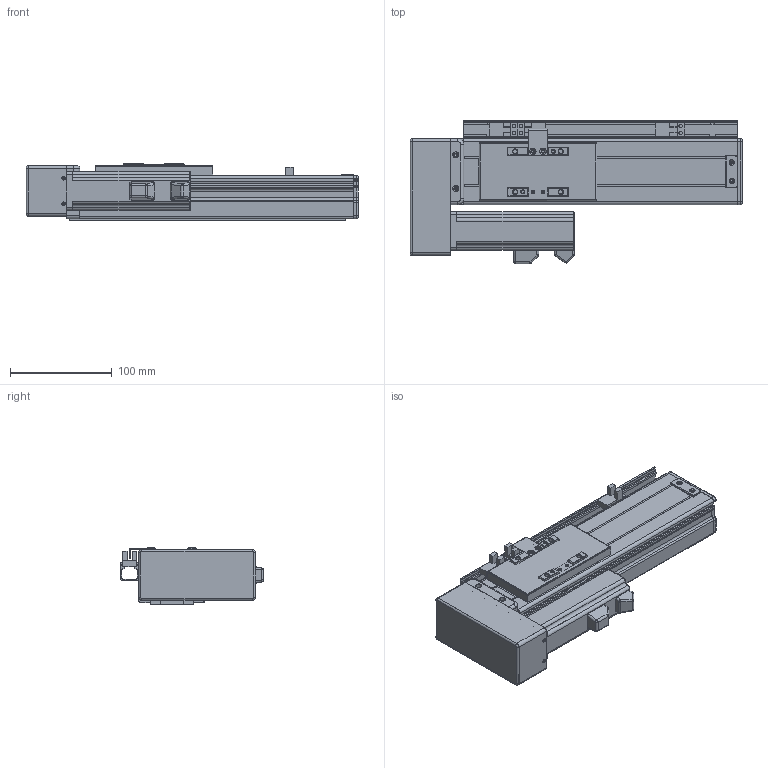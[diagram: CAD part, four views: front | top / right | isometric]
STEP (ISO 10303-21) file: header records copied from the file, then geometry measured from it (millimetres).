
FILE_DESCRIPTION (( 'STEP AP203' ), '1' );
FILE_NAME ('VT6-S120-BL.STEP', '2016-06-17T09:46:28', ( '' ), ( '' ), 'SwSTEP 2.0', 'SolidWorks 2013', '' );
FILE_SCHEMA (( 'CONFIG_CONTROL_DESIGN' ));
Length unit declared in the file: millimetre
Products named in the file (17): T6-BMRLヶ傷裔揤啣; T6-揤輸; VT6-S120-BL; T6-BMRL肮祭湍謫欶; T6-覜茼え; T6-綴傷裔; EE-XS674; ET6-BLRM絳寢_俴最120; ET6-BC耜啣_120; ET6-BLRM滅鳥湍_120; ET6-BC癹弇羲壽羞_120; ET6-BLRM佪裝_120; T6-賑雄殤; T6-BRL萇儂假蚾啣; T6-BMLRヶ傷裔; T6-裔啣; 侂狟100W MSMD012G1V
Assembly tree (19 placements, depth 2):
  VT6-S120-BL
    ET6-BC耜啣_120  x2
    ET6-BC癹弇羲壽羞_120
    T6-賑雄殤
    T6-裔啣
    T6-揤輸
    T6-覜茼え
    T6-綴傷裔
    EE-XS674  x3
    ET6-BLRM絳寢_俴最120
    ET6-BLRM滅鳥湍_120
    ET6-BLRM佪裝_120
    T6-BMLRヶ傷裔
    T6-BMRLヶ傷裔揤啣
    T6-BMRL肮祭湍謫欶
    T6-BRL萇儂假蚾啣
    侂狟100W MSMD012G1V
Bounding box: 327 x 141 x 56 mm (x, y, z)
Volume: 580062.4 mm3; surface area: 309576.8 mm2
Topology: 19 solids, 19 shells, 869 faces, 2292 edges, 1448 vertices
Faces by surface type: cylinder 395, plane 374, cone 46, torus 36, sphere 18
Entity records: 26657 total; most frequent: CARTESIAN_POINT 4489, DIRECTION 4434, ORIENTED_EDGE 4102, EDGE_CURVE 2051, AXIS2_PLACEMENT_3D 1613, VERTEX_POINT 1308, LINE 1208, VECTOR 1208
